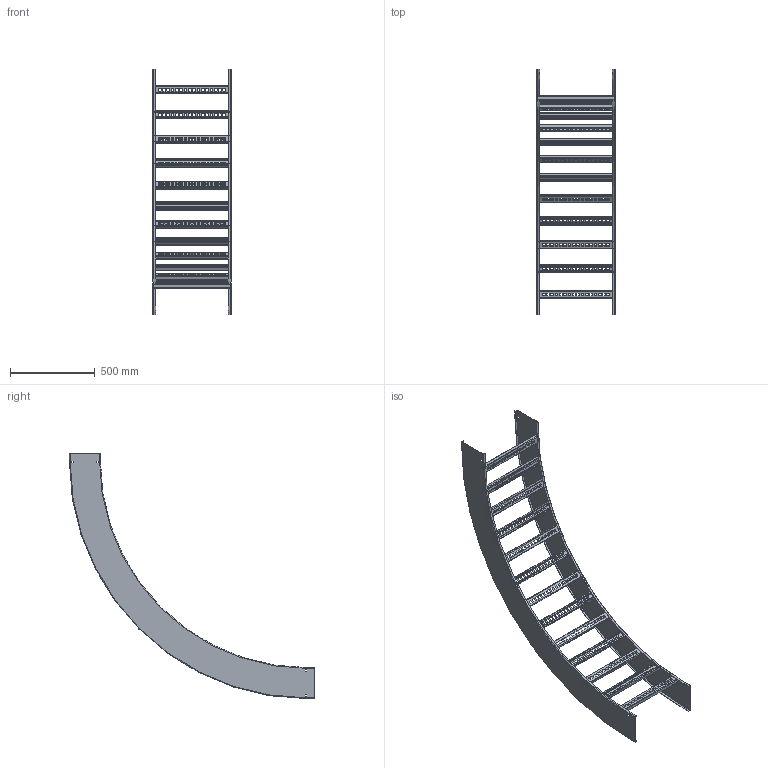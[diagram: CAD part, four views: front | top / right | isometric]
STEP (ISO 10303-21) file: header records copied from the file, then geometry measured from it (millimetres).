
FILE_DESCRIPTION((''),'2;1');
FILE_NAME('AUF718VVO9048_ASM','2010-02-02T',('erouzier'),(''),'PRO/ENGINEER BY PARAMETRIC TECHNOLOGY CORPORATION, 2008510','PRO/ENGINEER BY PARAMETRIC TECHNOLOGY CORPORATION, 2008510','');
FILE_SCHEMA(('CONFIG_CONTROL_DESIGN'));
Length unit declared in the file: inch
Products named in the file (3): CDS001419_7_90_48; CDS002159L18-P; AUF718VVO9048_ASM
Assembly tree (15 placements, depth 2):
  AUF718VVO9048_ASM
    CDS001419_7_90_48  x2
    CDS002159L18-P  x13
Bounding box: 461.31 x 1446.07 x 1446.07 mm (x, y, z)
Volume: 2597494.6 mm3; surface area: 3116408.4 mm2
Topology: 15 solids, 15 shells, 2170 faces, 6356 edges, 4216 vertices
Faces by surface type: plane 1163, cylinder 999, torus 8
Entity records: 7208 total; most frequent: DIRECTION 1250, CARTESIAN_POINT 1230, ORIENTED_EDGE 1208, EDGE_CURVE 604, VECTOR 426, LINE 426, AXIS2_PLACEMENT_3D 412, VERTEX_POINT 392
